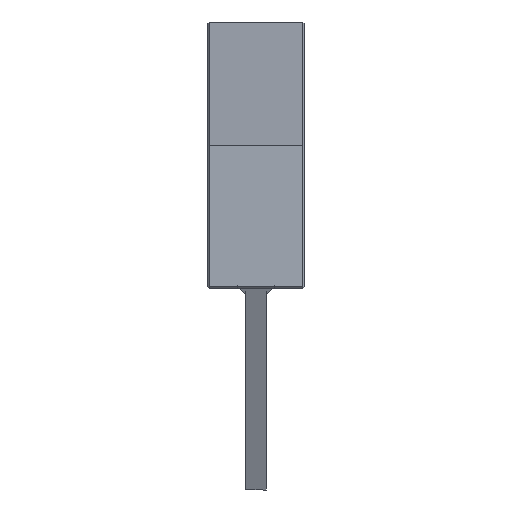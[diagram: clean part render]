
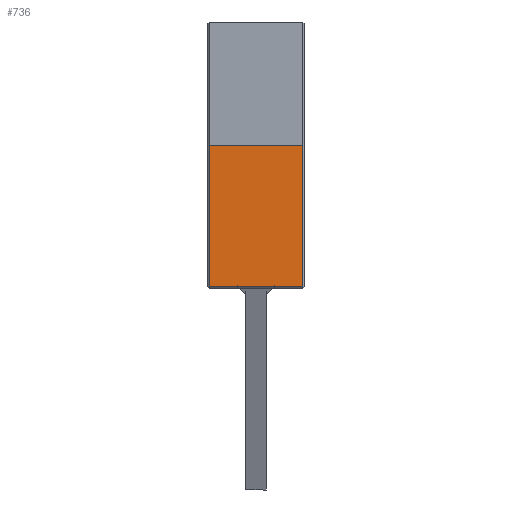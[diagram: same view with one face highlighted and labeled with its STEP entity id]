
A CAD part, left-side view. The second image highlights one B-rep face of the part: STEP entity #736.
In plain terms, the highlighted planar face has unit normal (-1, 0, 0).
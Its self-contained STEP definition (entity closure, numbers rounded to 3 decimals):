
#66 = EDGE_LOOP ( 'NONE', ( #5937, #2316, #6476, #3585 ) ) ;
#182 = VECTOR ( 'NONE', #4417, 1000. ) ;
#422 = CARTESIAN_POINT ( 'NONE',  ( -209., -14., 460.5 ) ) ;
#616 = CARTESIAN_POINT ( 'NONE',  ( -209., 14.5, 460. ) ) ;
#736 = ADVANCED_FACE ( 'NONE', ( #2046 ), #4385, .T. ) ;
#809 = AXIS2_PLACEMENT_3D ( 'NONE', #616, #3287, #5419 ) ;
#960 = EDGE_CURVE ( 'NONE', #3942, #6510, #4902, .T. ) ;
#1096 = CARTESIAN_POINT ( 'NONE',  ( -209., 14., 503. ) ) ;
#1162 = CARTESIAN_POINT ( 'NONE',  ( -209., -14.5, 503. ) ) ;
#1305 = VERTEX_POINT ( 'NONE', #1096 ) ;
#1405 = CARTESIAN_POINT ( 'NONE',  ( -209., 14., 503. ) ) ;
#2046 = FACE_OUTER_BOUND ( 'NONE', #66, .T. ) ;
#2142 = VERTEX_POINT ( 'NONE', #5659 ) ;
#2316 = ORIENTED_EDGE ( 'NONE', *, *, #6551, .F. ) ;
#2619 = VECTOR ( 'NONE', #3815, 1000. ) ;
#2823 = CARTESIAN_POINT ( 'NONE',  ( -209., 14.5, 460.5 ) ) ;
#3070 = CARTESIAN_POINT ( 'NONE',  ( -209., -14., 503. ) ) ;
#3280 = CARTESIAN_POINT ( 'NONE',  ( -209., -14., 460. ) ) ;
#3287 = DIRECTION ( 'NONE',  ( -1., 0., 0. ) ) ;
#3585 = ORIENTED_EDGE ( 'NONE', *, *, #960, .F. ) ;
#3815 = DIRECTION ( 'NONE',  ( 0., 1., 0. ) ) ;
#3942 = VERTEX_POINT ( 'NONE', #3070 ) ;
#4119 = EDGE_CURVE ( 'NONE', #3942, #1305, #4379, .T. ) ;
#4379 = LINE ( 'NONE', #1162, #2619 ) ;
#4385 = PLANE ( 'NONE',  #809 ) ;
#4417 = DIRECTION ( 'NONE',  ( 0., 1., 0. ) ) ;
#4426 = LINE ( 'NONE', #2823, #182 ) ;
#4902 = LINE ( 'NONE', #3280, #5303 ) ;
#5303 = VECTOR ( 'NONE', #6518, 1000. ) ;
#5419 = DIRECTION ( 'NONE',  ( 0., 0., -1. ) ) ;
#5580 = EDGE_CURVE ( 'NONE', #6510, #2142, #4426, .T. ) ;
#5659 = CARTESIAN_POINT ( 'NONE',  ( -209., 14., 460.5 ) ) ;
#5937 = ORIENTED_EDGE ( 'NONE', *, *, #4119, .T. ) ;
#6253 = VECTOR ( 'NONE', #6773, 1000. ) ;
#6423 = LINE ( 'NONE', #1405, #6253 ) ;
#6476 = ORIENTED_EDGE ( 'NONE', *, *, #5580, .F. ) ;
#6510 = VERTEX_POINT ( 'NONE', #422 ) ;
#6518 = DIRECTION ( 'NONE',  ( 0., 0., -1. ) ) ;
#6551 = EDGE_CURVE ( 'NONE', #2142, #1305, #6423, .T. ) ;
#6773 = DIRECTION ( 'NONE',  ( 0., 0., 1. ) ) ;
